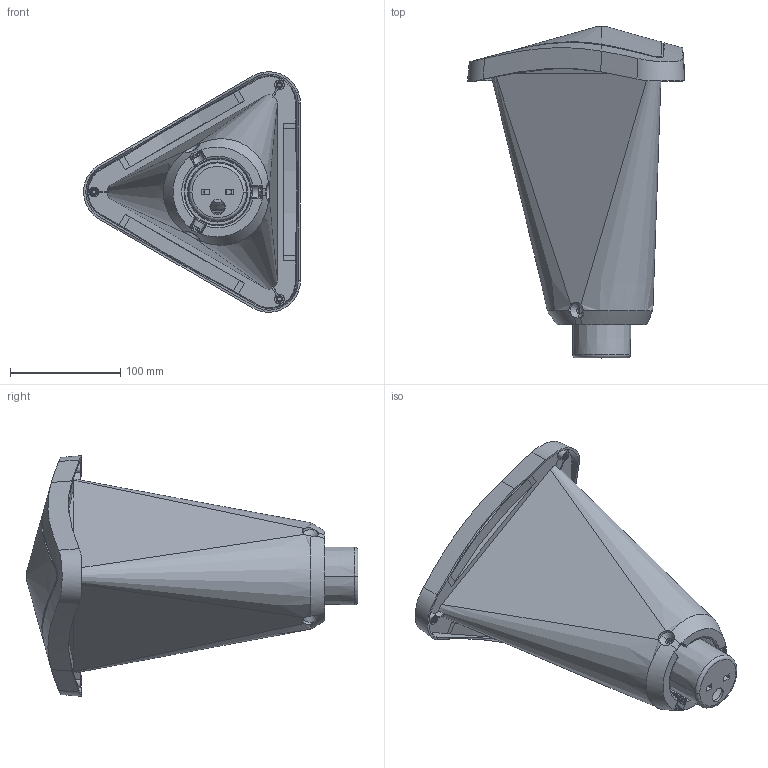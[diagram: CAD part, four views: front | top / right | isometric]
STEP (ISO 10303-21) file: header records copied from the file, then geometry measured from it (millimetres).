
FILE_DESCRIPTION((''),'2;1');
FILE_NAME('30W_SW0001','2025-07-29T14:51:35',('Piccioli'),(''),'CREO PARAMETRIC BY PTC INC, 2025010','CREO PARAMETRIC BY PTC INC, 2025010','');
FILE_SCHEMA(('CONFIG_CONTROL_DESIGN'));
Products named in the file (1): 30W_SW0001
Bounding box: 196.56 x 300.95 x 218.12 mm (x, y, z)
Surface area: 388018.3 mm2 (no closed solid volume)
Topology: 0 solids, 34 shells, 688 faces, 2626 edges, 1915 vertices
Faces by surface type: plane 279, cone 149, cylinder 103, bspline 86, torus 44, extrusion 19, sphere 8
Entity records: 57878 total; most frequent: CARTESIAN_POINT 38409, ORIENTED_EDGE 4168, DIRECTION 3201, EDGE_CURVE 2624, VERTEX_POINT 1915, B_SPLINE_CURVE_WITH_KNOTS 1168, AXIS2_PLACEMENT_3D 1124, VECTOR 953
